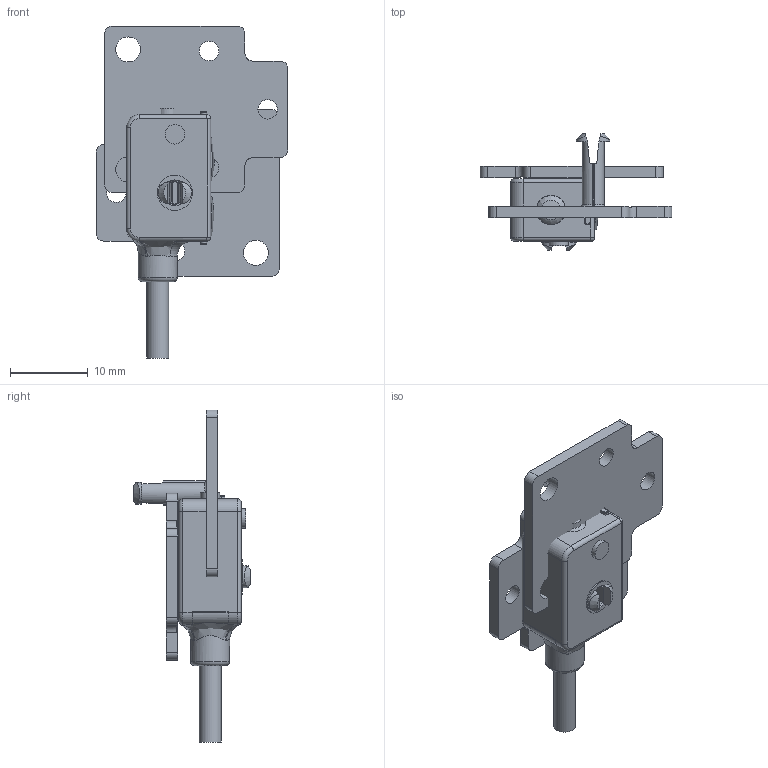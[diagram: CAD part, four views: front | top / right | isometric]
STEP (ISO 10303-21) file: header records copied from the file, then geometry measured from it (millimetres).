
FILE_DESCRIPTION( ( 'Unknown' ), '1' );
FILE_NAME( 'X:/SolidEdge/Models/Dokumentationen/Opto/FxxK 07/Vereinfachte Modelle/Neutralformate/FxDK 07.stp', 'Unknown', ( 'Unknown' ), ( 'Unknown' ), 'PSStep 14.0', 'Unknown', ' ' );
FILE_SCHEMA( ( 'AUTOMOTIVE_DESIGN { 1 0 10303 214 1 1 1 1 }' ) );
Length unit declared in the file: millimetre
Products named in the file (3): Assem1; FxDK 07; 11102447
Bounding box: 24.6 x 14.95 x 42.6 mm (x, y, z)
Volume: 4414.6 mm3; surface area: 4281 mm2
Topology: 4 solids, 4 shells, 290 faces, 714 edges, 438 vertices
Faces by surface type: plane 126, cylinder 100, torus 24, bspline 18, sphere 14, cone 8
Full cylindrical faces by diameter (mm): 2.5 x12, 2.8 x2, 3 x2, 3.2 x4, 3.8 x2, 4.5 x4, 5 x2
Entity records: 5734 total; most frequent: CARTESIAN_POINT 1334, DIRECTION 709, ORIENTED_EDGE 640, EDGE_CURVE 320, AXIS2_PLACEMENT_3D 289, VERTEX_POINT 207, EDGE_LOOP 185, FACE_OUTER_BOUND 161
